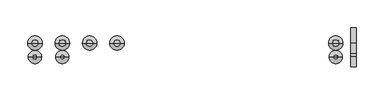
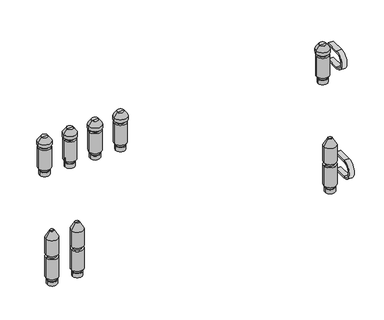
"""IFC4 building model written with IfcOpenShell, lengths in millimetres: valve geometry, PL AT_Manifold_FT-EV : 12 circuits."""

from ifc_helpers import new_model, si_unit, point, frame, frame_2d, origin, origin_2d, place, context, project, spatial, polyline, circle_curve, trimmed, segment, composite_curve, outline, extrude, source, transform, mapped, element, save
from ifc_brep_helpers import plane_surface, cylinder_surface, revolved_surface, advanced_brep


def valve_d379a65c(model_context):
    return source(origin(), model_context, "Body", "SolidModel", [
        advanced_brep(
        [(180.3181818, 25.0, 174.88733), (199.3181818, 25.0, 174.88733), (189.8181818, 25.0, 174.88733), (180.3181818, 25.0, 182.9630354), (199.3181818, 25.0, 182.9630354), (181.8181818, 25.0, 182.9630354), (197.8181818, 25.0, 182.9630354), (181.8181818, 25.0, 189.669747), (197.8181818, 25.0, 189.669747), (177.8181818, 25.0, 189.669747), (201.8181818, 25.0, 189.669747), (177.8181818, 25.0, 230.330253), (201.8181818, 25.0, 230.330253), (181.8181818, 25.0, 230.330253), (197.8181818, 25.0, 230.330253), (181.8181818, 25.0, 236.0474786), (197.8181818, 25.0, 236.0474786), (176.8181818, 25.0, 236.0474786), (202.8181818, 25.0, 236.0474786), (176.8181818, 25.0, 242.337955), (202.8181818, 25.0, 242.337955), (183.4733597, 25.0, 251.842534), (196.1630039, 25.0, 251.842534), (189.8181818, 25.0, 251.842534)],
        [
            (0, 1, circle_curve(frame((189.8181818, 25.0, 174.88733), z_axis=(0.0, 0.0, -1.0), x_axis=(1.0, 0.0, 0.0)), 9.5)),
            (1, 2),
            (2, 0),
            (1, 0, circle_curve(frame((189.8181818, 25.0, 174.88733), z_axis=(0.0, 0.0, -1.0), x_axis=(1.0, 0.0, 0.0)), 9.5)),
            (3, 4, circle_curve(frame((189.8181818, 25.0, 182.9630354), z_axis=(0.0, 0.0, -1.0), x_axis=(1.0, 0.0, 0.0)), 9.5)),
            (4, 1),
            (0, 3),
            (4, 3, circle_curve(frame((189.8181818, 25.0, 182.9630354), z_axis=(0.0, 0.0, -1.0), x_axis=(1.0, 0.0, 0.0)), 9.5)),
            (5, 6, circle_curve(frame((189.8181818, 25.0, 182.9630354), z_axis=(0.0, 0.0, -1.0), x_axis=(1.0, 0.0, 0.0)), 8.0)),
            (6, 4),
            (3, 5),
            (6, 5, circle_curve(frame((189.8181818, 25.0, 182.9630354), z_axis=(0.0, 0.0, -1.0), x_axis=(1.0, 0.0, 0.0)), 8.0)),
            (7, 8, circle_curve(frame((189.8181818, 25.0, 189.669747), z_axis=(0.0, 0.0, -1.0), x_axis=(1.0, 0.0, 0.0)), 8.0)),
            (8, 6),
            (5, 7),
            (8, 7, circle_curve(frame((189.8181818, 25.0, 189.669747), z_axis=(0.0, 0.0, -1.0), x_axis=(1.0, 0.0, 0.0)), 8.0)),
            (9, 10, circle_curve(frame((189.8181818, 25.0, 189.669747), z_axis=(0.0, 0.0, -1.0), x_axis=(1.0, 0.0, 0.0)), 12.0)),
            (10, 8),
            (7, 9),
            (10, 9, circle_curve(frame((189.8181818, 25.0, 189.669747), z_axis=(0.0, 0.0, -1.0), x_axis=(1.0, 0.0, 0.0)), 12.0)),
            (11, 12, circle_curve(frame((189.8181818, 25.0, 230.330253), z_axis=(0.0, 0.0, -1.0), x_axis=(1.0, 0.0, 0.0)), 12.0)),
            (12, 10),
            (9, 11),
            (12, 11, circle_curve(frame((189.8181818, 25.0, 230.330253), z_axis=(0.0, 0.0, -1.0), x_axis=(1.0, 0.0, 0.0)), 12.0)),
            (13, 14, circle_curve(frame((189.8181818, 25.0, 230.330253), z_axis=(0.0, 0.0, -1.0), x_axis=(1.0, 0.0, 0.0)), 8.0)),
            (14, 12),
            (11, 13),
            (14, 13, circle_curve(frame((189.8181818, 25.0, 230.330253), z_axis=(0.0, 0.0, -1.0), x_axis=(1.0, 0.0, 0.0)), 8.0)),
            (15, 16, circle_curve(frame((189.8181818, 25.0, 236.0474786), z_axis=(0.0, 0.0, -1.0), x_axis=(1.0, 0.0, 0.0)), 8.0)),
            (16, 14),
            (13, 15),
            (16, 15, circle_curve(frame((189.8181818, 25.0, 236.0474786), z_axis=(0.0, 0.0, -1.0), x_axis=(1.0, 0.0, 0.0)), 8.0)),
            (17, 18, circle_curve(frame((189.8181818, 25.0, 236.0474786), z_axis=(0.0, 0.0, -1.0), x_axis=(1.0, 0.0, 0.0)), 13.0)),
            (18, 16),
            (15, 17),
            (18, 17, circle_curve(frame((189.8181818, 25.0, 236.0474786), z_axis=(0.0, 0.0, -1.0), x_axis=(1.0, 0.0, 0.0)), 13.0)),
            (19, 20, circle_curve(frame((189.8181818, 25.0, 242.337955), z_axis=(0.0, 0.0, -1.0), x_axis=(1.0, 0.0, 0.0)), 13.0)),
            (20, 18),
            (17, 19),
            (20, 19, circle_curve(frame((189.8181818, 25.0, 242.337955), z_axis=(0.0, 0.0, -1.0), x_axis=(1.0, 0.0, 0.0)), 13.0)),
            (21, 22, circle_curve(frame((189.8181818, 25.0, 251.842534), z_axis=(0.0, 0.0, -1.0), x_axis=(1.0, 0.0, 0.0)), 6.3448221)),
            (22, 20),
            (19, 21),
            (22, 21, circle_curve(frame((189.8181818, 25.0, 251.842534), z_axis=(0.0, 0.0, -1.0), x_axis=(1.0, 0.0, 0.0)), 6.3448221)),
            (23, 22),
            (21, 23),
        ],
        [
            plane_surface(frame((189.8181818, 25.0, 174.88733), z_axis=(0.0, 0.0, -1.0), x_axis=(1.0, 0.0, 0.0))),
            cylinder_surface(frame((189.8181818, 25.0, 247.7026565), z_axis=(0.0, 0.0, 1.0), x_axis=(1.0, 0.0, 0.0)), 9.5),
            plane_surface(frame((189.8181818, 25.0, 182.9630354), z_axis=(0.0, 0.0, 1.0), x_axis=(1.0, 0.0, 0.0))),
            cylinder_surface(frame((189.8181818, 25.0, 247.7026565), z_axis=(0.0, 0.0, 1.0), x_axis=(1.0, 0.0, 0.0)), 8.0),
            plane_surface(frame((189.8181818, 25.0, 189.669747), z_axis=(0.0, 0.0, -1.0), x_axis=(1.0, 0.0, 0.0))),
            cylinder_surface(frame((189.8181818, 25.0, 247.7026565), z_axis=(0.0, 0.0, 1.0), x_axis=(1.0, 0.0, 0.0)), 12.0),
            plane_surface(frame((189.8181818, 25.0, 230.330253), z_axis=(0.0, 0.0, 1.0), x_axis=(1.0, 0.0, 0.0))),
            plane_surface(frame((189.8181818, 25.0, 236.0474786), z_axis=(0.0, 0.0, -1.0), x_axis=(1.0, 0.0, 0.0))),
            cylinder_surface(frame((189.8181818, 25.0, 247.7026565), z_axis=(0.0, 0.0, 1.0), x_axis=(1.0, 0.0, 0.0)), 13.0),
            revolved_surface(polyline([(202.8181818, 25.0, 242.337955), (196.1630039, 25.0, 251.842534)]), (189.8181818, 25.0, 247.7026565), (0.0, 0.0, 1.0)),
            plane_surface(frame((189.8181818, 25.0, 251.842534), z_axis=(0.0, 0.0, 1.0), x_axis=(1.0, 0.0, 0.0))),
        ],
        [
            (0, [[1, 2, 3]]),
            (0, [[4, -3, -2]]),
            (1, [[5, 6, -1, 7]]),
            (1, [[8, -7, -4, -6]]),
            (2, [[9, 10, -5, 11]]),
            (2, [[12, -11, -8, -10]]),
            (3, [[13, 14, -9, 15]]),
            (3, [[16, -15, -12, -14]]),
            (4, [[17, 18, -13, 19]]),
            (4, [[20, -19, -16, -18]]),
            (5, [[21, 22, -17, 23]]),
            (5, [[24, -23, -20, -22]]),
            (6, [[25, 26, -21, 27]]),
            (6, [[28, -27, -24, -26]]),
            (3, [[29, 30, -25, 31]]),
            (3, [[32, -31, -28, -30]]),
            (7, [[33, 34, -29, 35]]),
            (7, [[36, -35, -32, -34]]),
            (8, [[37, 38, -33, 39]]),
            (8, [[40, -39, -36, -38]]),
            (9, [[41, 42, -37, 43]]),
            (9, [[44, -43, -40, -42]]),
            (10, [[45, -41, 46]]),
            (10, [[-46, -44, -45]]),
        ],
    ),
        advanced_brep(
        [(131.0454545, 25.0, 174.88733), (150.0454545, 25.0, 174.88733), (140.5454545, 25.0, 174.88733), (131.0454545, 25.0, 182.9630354), (150.0454545, 25.0, 182.9630354), (132.5454545, 25.0, 182.9630354), (148.5454545, 25.0, 182.9630354), (132.5454545, 25.0, 189.669747), (148.5454545, 25.0, 189.669747), (128.5454545, 25.0, 189.669747), (152.5454545, 25.0, 189.669747), (128.5454545, 25.0, 230.330253), (152.5454545, 25.0, 230.330253), (132.5454545, 25.0, 230.330253), (148.5454545, 25.0, 230.330253), (132.5454545, 25.0, 236.0474786), (148.5454545, 25.0, 236.0474786), (127.5454545, 25.0, 236.0474786), (153.5454545, 25.0, 236.0474786), (127.5454545, 25.0, 242.337955), (153.5454545, 25.0, 242.337955), (134.2006324, 25.0, 251.842534), (146.8902767, 25.0, 251.842534), (140.5454545, 25.0, 251.842534)],
        [
            (0, 1, circle_curve(frame((140.5454545, 25.0, 174.88733), z_axis=(0.0, 0.0, -1.0), x_axis=(1.0, 0.0, 0.0)), 9.5)),
            (1, 2),
            (2, 0),
            (1, 0, circle_curve(frame((140.5454545, 25.0, 174.88733), z_axis=(0.0, 0.0, -1.0), x_axis=(1.0, 0.0, 0.0)), 9.5)),
            (3, 4, circle_curve(frame((140.5454545, 25.0, 182.9630354), z_axis=(0.0, 0.0, -1.0), x_axis=(1.0, 0.0, 0.0)), 9.5)),
            (4, 1),
            (0, 3),
            (4, 3, circle_curve(frame((140.5454545, 25.0, 182.9630354), z_axis=(0.0, 0.0, -1.0), x_axis=(1.0, 0.0, 0.0)), 9.5)),
            (5, 6, circle_curve(frame((140.5454545, 25.0, 182.9630354), z_axis=(0.0, 0.0, -1.0), x_axis=(1.0, 0.0, 0.0)), 8.0)),
            (6, 4),
            (3, 5),
            (6, 5, circle_curve(frame((140.5454545, 25.0, 182.9630354), z_axis=(0.0, 0.0, -1.0), x_axis=(1.0, 0.0, 0.0)), 8.0)),
            (7, 8, circle_curve(frame((140.5454545, 25.0, 189.669747), z_axis=(0.0, 0.0, -1.0), x_axis=(1.0, 0.0, 0.0)), 8.0)),
            (8, 6),
            (5, 7),
            (8, 7, circle_curve(frame((140.5454545, 25.0, 189.669747), z_axis=(0.0, 0.0, -1.0), x_axis=(1.0, 0.0, 0.0)), 8.0)),
            (9, 10, circle_curve(frame((140.5454545, 25.0, 189.669747), z_axis=(0.0, 0.0, -1.0), x_axis=(1.0, 0.0, 0.0)), 12.0)),
            (10, 8),
            (7, 9),
            (10, 9, circle_curve(frame((140.5454545, 25.0, 189.669747), z_axis=(0.0, 0.0, -1.0), x_axis=(1.0, 0.0, 0.0)), 12.0)),
            (11, 12, circle_curve(frame((140.5454545, 25.0, 230.330253), z_axis=(0.0, 0.0, -1.0), x_axis=(1.0, 0.0, 0.0)), 12.0)),
            (12, 10),
            (9, 11),
            (12, 11, circle_curve(frame((140.5454545, 25.0, 230.330253), z_axis=(0.0, 0.0, -1.0), x_axis=(1.0, 0.0, 0.0)), 12.0)),
            (13, 14, circle_curve(frame((140.5454545, 25.0, 230.330253), z_axis=(0.0, 0.0, -1.0), x_axis=(1.0, 0.0, 0.0)), 8.0)),
            (14, 12),
            (11, 13),
            (14, 13, circle_curve(frame((140.5454545, 25.0, 230.330253), z_axis=(0.0, 0.0, -1.0), x_axis=(1.0, 0.0, 0.0)), 8.0)),
            (15, 16, circle_curve(frame((140.5454545, 25.0, 236.0474786), z_axis=(0.0, 0.0, -1.0), x_axis=(1.0, 0.0, 0.0)), 8.0)),
            (16, 14),
            (13, 15),
            (16, 15, circle_curve(frame((140.5454545, 25.0, 236.0474786), z_axis=(0.0, 0.0, -1.0), x_axis=(1.0, 0.0, 0.0)), 8.0)),
            (17, 18, circle_curve(frame((140.5454545, 25.0, 236.0474786), z_axis=(0.0, 0.0, -1.0), x_axis=(1.0, 0.0, 0.0)), 13.0)),
            (18, 16),
            (15, 17),
            (18, 17, circle_curve(frame((140.5454545, 25.0, 236.0474786), z_axis=(0.0, 0.0, -1.0), x_axis=(1.0, 0.0, 0.0)), 13.0)),
            (19, 20, circle_curve(frame((140.5454545, 25.0, 242.337955), z_axis=(0.0, 0.0, -1.0), x_axis=(1.0, 0.0, 0.0)), 13.0)),
            (20, 18),
            (17, 19),
            (20, 19, circle_curve(frame((140.5454545, 25.0, 242.337955), z_axis=(0.0, 0.0, -1.0), x_axis=(1.0, 0.0, 0.0)), 13.0)),
            (21, 22, circle_curve(frame((140.5454545, 25.0, 251.842534), z_axis=(0.0, 0.0, -1.0), x_axis=(1.0, 0.0, 0.0)), 6.3448221)),
            (22, 20),
            (19, 21),
            (22, 21, circle_curve(frame((140.5454545, 25.0, 251.842534), z_axis=(0.0, 0.0, -1.0), x_axis=(1.0, 0.0, 0.0)), 6.3448221)),
            (23, 22),
            (21, 23),
        ],
        [
            plane_surface(frame((140.5454545, 25.0, 174.88733), z_axis=(0.0, 0.0, -1.0), x_axis=(1.0, 0.0, 0.0))),
            cylinder_surface(frame((140.5454545, 25.0, 247.7026565), z_axis=(0.0, 0.0, 1.0), x_axis=(1.0, 0.0, 0.0)), 9.5),
            plane_surface(frame((140.5454545, 25.0, 182.9630354), z_axis=(0.0, 0.0, 1.0), x_axis=(1.0, 0.0, 0.0))),
            cylinder_surface(frame((140.5454545, 25.0, 247.7026565), z_axis=(0.0, 0.0, 1.0), x_axis=(1.0, 0.0, 0.0)), 8.0),
            plane_surface(frame((140.5454545, 25.0, 189.669747), z_axis=(0.0, 0.0, -1.0), x_axis=(1.0, 0.0, 0.0))),
            cylinder_surface(frame((140.5454545, 25.0, 247.7026565), z_axis=(0.0, 0.0, 1.0), x_axis=(1.0, 0.0, 0.0)), 12.0),
            plane_surface(frame((140.5454545, 25.0, 230.330253), z_axis=(0.0, 0.0, 1.0), x_axis=(1.0, 0.0, 0.0))),
            plane_surface(frame((140.5454545, 25.0, 236.0474786), z_axis=(0.0, 0.0, -1.0), x_axis=(1.0, 0.0, 0.0))),
            cylinder_surface(frame((140.5454545, 25.0, 247.7026565), z_axis=(0.0, 0.0, 1.0), x_axis=(1.0, 0.0, 0.0)), 13.0),
            revolved_surface(polyline([(153.5454545, 25.0, 242.337955), (146.8902767, 25.0, 251.842534)]), (140.5454545, 25.0, 247.7026565), (0.0, 0.0, 1.0)),
            plane_surface(frame((140.5454545, 25.0, 251.842534), z_axis=(0.0, 0.0, 1.0), x_axis=(1.0, 0.0, 0.0))),
        ],
        [
            (0, [[1, 2, 3]]),
            (0, [[4, -3, -2]]),
            (1, [[5, 6, -1, 7]]),
            (1, [[8, -7, -4, -6]]),
            (2, [[9, 10, -5, 11]]),
            (2, [[12, -11, -8, -10]]),
            (3, [[13, 14, -9, 15]]),
            (3, [[16, -15, -12, -14]]),
            (4, [[17, 18, -13, 19]]),
            (4, [[20, -19, -16, -18]]),
            (5, [[21, 22, -17, 23]]),
            (5, [[24, -23, -20, -22]]),
            (6, [[25, 26, -21, 27]]),
            (6, [[28, -27, -24, -26]]),
            (3, [[29, 30, -25, 31]]),
            (3, [[32, -31, -28, -30]]),
            (7, [[33, 34, -29, 35]]),
            (7, [[36, -35, -32, -34]]),
            (8, [[37, 38, -33, 39]]),
            (8, [[40, -39, -36, -38]]),
            (9, [[41, 42, -37, 43]]),
            (9, [[44, -43, -40, -42]]),
            (10, [[45, -41, 46]]),
            (10, [[-46, -44, -45]]),
        ],
    ),
        advanced_brep(
        [(81.7727273, 0.0, -35.11267), (100.7727273, 0.0, -35.11267), (91.2727273, 0.0, -35.11267), (81.7727273, 0.0, -27.0369646), (100.7727273, 0.0, -27.0369646), (83.2727273, 0.0, -27.0369646), (99.2727273, 0.0, -27.0369646), (83.2727273, 0.0, -20.330253), (99.2727273, 0.0, -20.330253), (79.2727273, 0.0, -20.330253), (103.2727273, 0.0, -20.330253), (79.2727273, 0.0, 20.330253), (103.2727273, 0.0, 20.330253), (83.2727273, 0.0, 20.330253), (99.2727273, 0.0, 20.330253), (83.2727273, 0.0, 27.0474786), (99.2727273, 0.0, 27.0474786), (79.2727273, 0.0, 27.0474786), (103.2727273, 0.0, 27.0474786), (79.2727273, 0.0, 59.4084325), (103.2727273, 0.0, 59.4084325), (87.2727273, 0.0, 73.264839), (95.2727273, 0.0, 73.264839), (91.2727273, 0.0, 73.264839)],
        [
            (0, 1, circle_curve(frame((91.2727273, 0.0, -35.11267), z_axis=(0.0, 0.0, -1.0), x_axis=(1.0, 0.0, 0.0)), 9.5)),
            (1, 2),
            (2, 0),
            (1, 0, circle_curve(frame((91.2727273, 0.0, -35.11267), z_axis=(0.0, 0.0, -1.0), x_axis=(1.0, 0.0, 0.0)), 9.5)),
            (3, 4, circle_curve(frame((91.2727273, 0.0, -27.0369646), z_axis=(0.0, 0.0, -1.0), x_axis=(1.0, 0.0, 0.0)), 9.5)),
            (4, 1),
            (0, 3),
            (4, 3, circle_curve(frame((91.2727273, 0.0, -27.0369646), z_axis=(0.0, 0.0, -1.0), x_axis=(1.0, 0.0, 0.0)), 9.5)),
            (5, 6, circle_curve(frame((91.2727273, 0.0, -27.0369646), z_axis=(0.0, 0.0, -1.0), x_axis=(1.0, 0.0, 0.0)), 8.0)),
            (6, 4),
            (3, 5),
            (6, 5, circle_curve(frame((91.2727273, 0.0, -27.0369646), z_axis=(0.0, 0.0, -1.0), x_axis=(1.0, 0.0, 0.0)), 8.0)),
            (7, 8, circle_curve(frame((91.2727273, 0.0, -20.330253), z_axis=(0.0, 0.0, -1.0), x_axis=(1.0, 0.0, 0.0)), 8.0)),
            (8, 6),
            (5, 7),
            (8, 7, circle_curve(frame((91.2727273, 0.0, -20.330253), z_axis=(0.0, 0.0, -1.0), x_axis=(1.0, 0.0, 0.0)), 8.0)),
            (9, 10, circle_curve(frame((91.2727273, 0.0, -20.330253), z_axis=(0.0, 0.0, -1.0), x_axis=(1.0, 0.0, 0.0)), 12.0)),
            (10, 8),
            (7, 9),
            (10, 9, circle_curve(frame((91.2727273, 0.0, -20.330253), z_axis=(0.0, 0.0, -1.0), x_axis=(1.0, 0.0, 0.0)), 12.0)),
            (11, 12, circle_curve(frame((91.2727273, 0.0, 20.330253), z_axis=(0.0, 0.0, -1.0), x_axis=(1.0, 0.0, 0.0)), 12.0)),
            (12, 10),
            (9, 11),
            (12, 11, circle_curve(frame((91.2727273, 0.0, 20.330253), z_axis=(0.0, 0.0, -1.0), x_axis=(1.0, 0.0, 0.0)), 12.0)),
            (13, 14, circle_curve(frame((91.2727273, 0.0, 20.330253), z_axis=(0.0, 0.0, -1.0), x_axis=(1.0, 0.0, 0.0)), 8.0)),
            (14, 12),
            (11, 13),
            (14, 13, circle_curve(frame((91.2727273, 0.0, 20.330253), z_axis=(0.0, 0.0, -1.0), x_axis=(1.0, 0.0, 0.0)), 8.0)),
            (15, 16, circle_curve(frame((91.2727273, 0.0, 27.0474786), z_axis=(0.0, 0.0, -1.0), x_axis=(1.0, 0.0, 0.0)), 8.0)),
            (16, 14),
            (13, 15),
            (16, 15, circle_curve(frame((91.2727273, 0.0, 27.0474786), z_axis=(0.0, 0.0, -1.0), x_axis=(1.0, 0.0, 0.0)), 8.0)),
            (17, 18, circle_curve(frame((91.2727273, 0.0, 27.0474786), z_axis=(0.0, 0.0, -1.0), x_axis=(1.0, 0.0, 0.0)), 12.0)),
            (18, 16),
            (15, 17),
            (18, 17, circle_curve(frame((91.2727273, 0.0, 27.0474786), z_axis=(0.0, 0.0, -1.0), x_axis=(1.0, 0.0, 0.0)), 12.0)),
            (19, 20, circle_curve(frame((91.2727273, 0.0, 59.4084325), z_axis=(0.0, 0.0, -1.0), x_axis=(1.0, 0.0, 0.0)), 12.0)),
            (20, 18),
            (17, 19),
            (20, 19, circle_curve(frame((91.2727273, 0.0, 59.4084325), z_axis=(0.0, 0.0, -1.0), x_axis=(1.0, 0.0, 0.0)), 12.0)),
            (21, 22, circle_curve(frame((91.2727273, 0.0, 73.264839), z_axis=(0.0, 0.0, -1.0), x_axis=(1.0, 0.0, 0.0)), 4.0)),
            (22, 20),
            (19, 21),
            (22, 21, circle_curve(frame((91.2727273, 0.0, 73.264839), z_axis=(0.0, 0.0, -1.0), x_axis=(1.0, 0.0, 0.0)), 4.0)),
            (23, 22),
            (21, 23),
        ],
        [
            plane_surface(frame((91.2727273, 0.0, -35.11267), z_axis=(0.0, 0.0, -1.0), x_axis=(1.0, 0.0, 0.0))),
            cylinder_surface(frame((91.2727273, 0.0, 58.264839), z_axis=(0.0, 0.0, 1.0), x_axis=(1.0, 0.0, 0.0)), 9.5),
            plane_surface(frame((91.2727273, 0.0, -27.0369646), z_axis=(0.0, 0.0, 1.0), x_axis=(1.0, 0.0, 0.0))),
            cylinder_surface(frame((91.2727273, 0.0, 58.264839), z_axis=(0.0, 0.0, 1.0), x_axis=(1.0, 0.0, 0.0)), 8.0),
            plane_surface(frame((91.2727273, 0.0, -20.330253), z_axis=(0.0, 0.0, -1.0), x_axis=(1.0, 0.0, 0.0))),
            cylinder_surface(frame((91.2727273, 0.0, 58.264839), z_axis=(0.0, 0.0, 1.0), x_axis=(1.0, 0.0, 0.0)), 12.0),
            plane_surface(frame((91.2727273, 0.0, 20.330253), z_axis=(0.0, 0.0, 1.0), x_axis=(1.0, 0.0, 0.0))),
            plane_surface(frame((91.2727273, 0.0, 27.0474786), z_axis=(0.0, 0.0, -1.0), x_axis=(1.0, 0.0, 0.0))),
            revolved_surface(polyline([(103.2727273, 0.0, 59.4084325), (95.2727273, 0.0, 73.264839)]), (91.2727273, 0.0, 58.264839), (0.0, 0.0, 1.0)),
            plane_surface(frame((91.2727273, 0.0, 73.264839), z_axis=(0.0, 0.0, 1.0), x_axis=(1.0, 0.0, 0.0))),
        ],
        [
            (0, [[1, 2, 3]]),
            (0, [[4, -3, -2]]),
            (1, [[5, 6, -1, 7]]),
            (1, [[8, -7, -4, -6]]),
            (2, [[9, 10, -5, 11]]),
            (2, [[12, -11, -8, -10]]),
            (3, [[13, 14, -9, 15]]),
            (3, [[16, -15, -12, -14]]),
            (4, [[17, 18, -13, 19]]),
            (4, [[20, -19, -16, -18]]),
            (5, [[21, 22, -17, 23]]),
            (5, [[24, -23, -20, -22]]),
            (6, [[25, 26, -21, 27]]),
            (6, [[28, -27, -24, -26]]),
            (3, [[29, 30, -25, 31]]),
            (3, [[32, -31, -28, -30]]),
            (7, [[33, 34, -29, 35]]),
            (7, [[36, -35, -32, -34]]),
            (5, [[37, 38, -33, 39]]),
            (5, [[40, -39, -36, -38]]),
            (8, [[41, 42, -37, 43]]),
            (8, [[44, -43, -40, -42]]),
            (9, [[45, -41, 46]]),
            (9, [[-46, -44, -45]]),
        ],
    ),
        advanced_brep(
        [(81.7727273, 25.0, 174.88733), (100.7727273, 25.0, 174.88733), (91.2727273, 25.0, 174.88733), (81.7727273, 25.0, 182.9630354), (100.7727273, 25.0, 182.9630354), (83.2727273, 25.0, 182.9630354), (99.2727273, 25.0, 182.9630354), (83.2727273, 25.0, 189.669747), (99.2727273, 25.0, 189.669747), (79.2727273, 25.0, 189.669747), (103.2727273, 25.0, 189.669747), (79.2727273, 25.0, 230.330253), (103.2727273, 25.0, 230.330253), (83.2727273, 25.0, 230.330253), (99.2727273, 25.0, 230.330253), (83.2727273, 25.0, 236.0474786), (99.2727273, 25.0, 236.0474786), (78.2727273, 25.0, 236.0474786), (104.2727273, 25.0, 236.0474786), (78.2727273, 25.0, 242.337955), (104.2727273, 25.0, 242.337955), (84.9279051, 25.0, 251.842534), (97.6175494, 25.0, 251.842534), (91.2727273, 25.0, 251.842534)],
        [
            (0, 1, circle_curve(frame((91.2727273, 25.0, 174.88733), z_axis=(0.0, 0.0, -1.0), x_axis=(1.0, 0.0, 0.0)), 9.5)),
            (1, 2),
            (2, 0),
            (1, 0, circle_curve(frame((91.2727273, 25.0, 174.88733), z_axis=(0.0, 0.0, -1.0), x_axis=(1.0, 0.0, 0.0)), 9.5)),
            (3, 4, circle_curve(frame((91.2727273, 25.0, 182.9630354), z_axis=(0.0, 0.0, -1.0), x_axis=(1.0, 0.0, 0.0)), 9.5)),
            (4, 1),
            (0, 3),
            (4, 3, circle_curve(frame((91.2727273, 25.0, 182.9630354), z_axis=(0.0, 0.0, -1.0), x_axis=(1.0, 0.0, 0.0)), 9.5)),
            (5, 6, circle_curve(frame((91.2727273, 25.0, 182.9630354), z_axis=(0.0, 0.0, -1.0), x_axis=(1.0, 0.0, 0.0)), 8.0)),
            (6, 4),
            (3, 5),
            (6, 5, circle_curve(frame((91.2727273, 25.0, 182.9630354), z_axis=(0.0, 0.0, -1.0), x_axis=(1.0, 0.0, 0.0)), 8.0)),
            (7, 8, circle_curve(frame((91.2727273, 25.0, 189.669747), z_axis=(0.0, 0.0, -1.0), x_axis=(1.0, 0.0, 0.0)), 8.0)),
            (8, 6),
            (5, 7),
            (8, 7, circle_curve(frame((91.2727273, 25.0, 189.669747), z_axis=(0.0, 0.0, -1.0), x_axis=(1.0, 0.0, 0.0)), 8.0)),
            (9, 10, circle_curve(frame((91.2727273, 25.0, 189.669747), z_axis=(0.0, 0.0, -1.0), x_axis=(1.0, 0.0, 0.0)), 12.0)),
            (10, 8),
            (7, 9),
            (10, 9, circle_curve(frame((91.2727273, 25.0, 189.669747), z_axis=(0.0, 0.0, -1.0), x_axis=(1.0, 0.0, 0.0)), 12.0)),
            (11, 12, circle_curve(frame((91.2727273, 25.0, 230.330253), z_axis=(0.0, 0.0, -1.0), x_axis=(1.0, 0.0, 0.0)), 12.0)),
            (12, 10),
            (9, 11),
            (12, 11, circle_curve(frame((91.2727273, 25.0, 230.330253), z_axis=(0.0, 0.0, -1.0), x_axis=(1.0, 0.0, 0.0)), 12.0)),
            (13, 14, circle_curve(frame((91.2727273, 25.0, 230.330253), z_axis=(0.0, 0.0, -1.0), x_axis=(1.0, 0.0, 0.0)), 8.0)),
            (14, 12),
            (11, 13),
            (14, 13, circle_curve(frame((91.2727273, 25.0, 230.330253), z_axis=(0.0, 0.0, -1.0), x_axis=(1.0, 0.0, 0.0)), 8.0)),
            (15, 16, circle_curve(frame((91.2727273, 25.0, 236.0474786), z_axis=(0.0, 0.0, -1.0), x_axis=(1.0, 0.0, 0.0)), 8.0)),
            (16, 14),
            (13, 15),
            (16, 15, circle_curve(frame((91.2727273, 25.0, 236.0474786), z_axis=(0.0, 0.0, -1.0), x_axis=(1.0, 0.0, 0.0)), 8.0)),
            (17, 18, circle_curve(frame((91.2727273, 25.0, 236.0474786), z_axis=(0.0, 0.0, -1.0), x_axis=(1.0, 0.0, 0.0)), 13.0)),
            (18, 16),
            (15, 17),
            (18, 17, circle_curve(frame((91.2727273, 25.0, 236.0474786), z_axis=(0.0, 0.0, -1.0), x_axis=(1.0, 0.0, 0.0)), 13.0)),
            (19, 20, circle_curve(frame((91.2727273, 25.0, 242.337955), z_axis=(0.0, 0.0, -1.0), x_axis=(1.0, 0.0, 0.0)), 13.0)),
            (20, 18),
            (17, 19),
            (20, 19, circle_curve(frame((91.2727273, 25.0, 242.337955), z_axis=(0.0, 0.0, -1.0), x_axis=(1.0, 0.0, 0.0)), 13.0)),
            (21, 22, circle_curve(frame((91.2727273, 25.0, 251.842534), z_axis=(0.0, 0.0, -1.0), x_axis=(1.0, 0.0, 0.0)), 6.3448221)),
            (22, 20),
            (19, 21),
            (22, 21, circle_curve(frame((91.2727273, 25.0, 251.842534), z_axis=(0.0, 0.0, -1.0), x_axis=(1.0, 0.0, 0.0)), 6.3448221)),
            (23, 22),
            (21, 23),
        ],
        [
            plane_surface(frame((91.2727273, 25.0, 174.88733), z_axis=(0.0, 0.0, -1.0), x_axis=(1.0, 0.0, 0.0))),
            cylinder_surface(frame((91.2727273, 25.0, 247.7026565), z_axis=(0.0, 0.0, 1.0), x_axis=(1.0, 0.0, 0.0)), 9.5),
            plane_surface(frame((91.2727273, 25.0, 182.9630354), z_axis=(0.0, 0.0, 1.0), x_axis=(1.0, 0.0, 0.0))),
            cylinder_surface(frame((91.2727273, 25.0, 247.7026565), z_axis=(0.0, 0.0, 1.0), x_axis=(1.0, 0.0, 0.0)), 8.0),
            plane_surface(frame((91.2727273, 25.0, 189.669747), z_axis=(0.0, 0.0, -1.0), x_axis=(1.0, 0.0, 0.0))),
            cylinder_surface(frame((91.2727273, 25.0, 247.7026565), z_axis=(0.0, 0.0, 1.0), x_axis=(1.0, 0.0, 0.0)), 12.0),
            plane_surface(frame((91.2727273, 25.0, 230.330253), z_axis=(0.0, 0.0, 1.0), x_axis=(1.0, 0.0, 0.0))),
            plane_surface(frame((91.2727273, 25.0, 236.0474786), z_axis=(0.0, 0.0, -1.0), x_axis=(1.0, 0.0, 0.0))),
            cylinder_surface(frame((91.2727273, 25.0, 247.7026565), z_axis=(0.0, 0.0, 1.0), x_axis=(1.0, 0.0, 0.0)), 13.0),
            revolved_surface(polyline([(104.2727273, 25.0, 242.337955), (97.6175494, 25.0, 251.842534)]), (91.2727273, 25.0, 247.7026565), (0.0, 0.0, 1.0)),
            plane_surface(frame((91.2727273, 25.0, 251.842534), z_axis=(0.0, 0.0, 1.0), x_axis=(1.0, 0.0, 0.0))),
        ],
        [
            (0, [[1, 2, 3]]),
            (0, [[4, -3, -2]]),
            (1, [[5, 6, -1, 7]]),
            (1, [[8, -7, -4, -6]]),
            (2, [[9, 10, -5, 11]]),
            (2, [[12, -11, -8, -10]]),
            (3, [[13, 14, -9, 15]]),
            (3, [[16, -15, -12, -14]]),
            (4, [[17, 18, -13, 19]]),
            (4, [[20, -19, -16, -18]]),
            (5, [[21, 22, -17, 23]]),
            (5, [[24, -23, -20, -22]]),
            (6, [[25, 26, -21, 27]]),
            (6, [[28, -27, -24, -26]]),
            (3, [[29, 30, -25, 31]]),
            (3, [[32, -31, -28, -30]]),
            (7, [[33, 34, -29, 35]]),
            (7, [[36, -35, -32, -34]]),
            (8, [[37, 38, -33, 39]]),
            (8, [[40, -39, -36, -38]]),
            (9, [[41, 42, -37, 43]]),
            (9, [[44, -43, -40, -42]]),
            (10, [[45, -41, 46]]),
            (10, [[-46, -44, -45]]),
        ],
    ),
        advanced_brep(
        [(574.5, 0.0, -35.11267), (593.5, 0.0, -35.11267), (584.0, 0.0, -35.11267), (574.5, 0.0, -27.0369646), (593.5, 0.0, -27.0369646), (576.0, 0.0, -27.0369646), (592.0, 0.0, -27.0369646), (576.0, 0.0, -20.330253), (592.0, 0.0, -20.330253), (572.0, 0.0, -20.330253), (596.0, 0.0, -20.330253), (572.0, 0.0, 20.330253), (596.0, 0.0, 20.330253), (576.0, 0.0, 20.330253), (592.0, 0.0, 20.330253), (576.0, 0.0, 27.0474786), (592.0, 0.0, 27.0474786), (572.0, 0.0, 27.0474786), (596.0, 0.0, 27.0474786), (572.0, 0.0, 59.4084325), (596.0, 0.0, 59.4084325), (580.0, 0.0, 73.264839), (588.0, 0.0, 73.264839), (584.0, 0.0, 73.264839)],
        [
            (0, 1, circle_curve(frame((584.0, 0.0, -35.11267), z_axis=(0.0, 0.0, -1.0), x_axis=(1.0, 0.0, 0.0)), 9.5)),
            (1, 2),
            (2, 0),
            (1, 0, circle_curve(frame((584.0, 0.0, -35.11267), z_axis=(0.0, 0.0, -1.0), x_axis=(1.0, 0.0, 0.0)), 9.5)),
            (3, 4, circle_curve(frame((584.0, 0.0, -27.0369646), z_axis=(0.0, 0.0, -1.0), x_axis=(1.0, 0.0, 0.0)), 9.5)),
            (4, 1),
            (0, 3),
            (4, 3, circle_curve(frame((584.0, 0.0, -27.0369646), z_axis=(0.0, 0.0, -1.0), x_axis=(1.0, 0.0, 0.0)), 9.5)),
            (5, 6, circle_curve(frame((584.0, 0.0, -27.0369646), z_axis=(0.0, 0.0, -1.0), x_axis=(1.0, 0.0, 0.0)), 8.0)),
            (6, 4),
            (3, 5),
            (6, 5, circle_curve(frame((584.0, 0.0, -27.0369646), z_axis=(0.0, 0.0, -1.0), x_axis=(1.0, 0.0, 0.0)), 8.0)),
            (7, 8, circle_curve(frame((584.0, 0.0, -20.330253), z_axis=(0.0, 0.0, -1.0), x_axis=(1.0, 0.0, 0.0)), 8.0)),
            (8, 6),
            (5, 7),
            (8, 7, circle_curve(frame((584.0, 0.0, -20.330253), z_axis=(0.0, 0.0, -1.0), x_axis=(1.0, 0.0, 0.0)), 8.0)),
            (9, 10, circle_curve(frame((584.0, 0.0, -20.330253), z_axis=(0.0, 0.0, -1.0), x_axis=(1.0, 0.0, 0.0)), 12.0)),
            (10, 8),
            (7, 9),
            (10, 9, circle_curve(frame((584.0, 0.0, -20.330253), z_axis=(0.0, 0.0, -1.0), x_axis=(1.0, 0.0, 0.0)), 12.0)),
            (11, 12, circle_curve(frame((584.0, 0.0, 20.330253), z_axis=(0.0, 0.0, -1.0), x_axis=(1.0, 0.0, 0.0)), 12.0)),
            (12, 10),
            (9, 11),
            (12, 11, circle_curve(frame((584.0, 0.0, 20.330253), z_axis=(0.0, 0.0, -1.0), x_axis=(1.0, 0.0, 0.0)), 12.0)),
            (13, 14, circle_curve(frame((584.0, 0.0, 20.330253), z_axis=(0.0, 0.0, -1.0), x_axis=(1.0, 0.0, 0.0)), 8.0)),
            (14, 12),
            (11, 13),
            (14, 13, circle_curve(frame((584.0, 0.0, 20.330253), z_axis=(0.0, 0.0, -1.0), x_axis=(1.0, 0.0, 0.0)), 8.0)),
            (15, 16, circle_curve(frame((584.0, 0.0, 27.0474786), z_axis=(0.0, 0.0, -1.0), x_axis=(1.0, 0.0, 0.0)), 8.0)),
            (16, 14),
            (13, 15),
            (16, 15, circle_curve(frame((584.0, 0.0, 27.0474786), z_axis=(0.0, 0.0, -1.0), x_axis=(1.0, 0.0, 0.0)), 8.0)),
            (17, 18, circle_curve(frame((584.0, 0.0, 27.0474786), z_axis=(0.0, 0.0, -1.0), x_axis=(1.0, 0.0, 0.0)), 12.0)),
            (18, 16),
            (15, 17),
            (18, 17, circle_curve(frame((584.0, 0.0, 27.0474786), z_axis=(0.0, 0.0, -1.0), x_axis=(1.0, 0.0, 0.0)), 12.0)),
            (19, 20, circle_curve(frame((584.0, 0.0, 59.4084325), z_axis=(0.0, 0.0, -1.0), x_axis=(1.0, 0.0, 0.0)), 12.0)),
            (20, 18),
            (17, 19),
            (20, 19, circle_curve(frame((584.0, 0.0, 59.4084325), z_axis=(0.0, 0.0, -1.0), x_axis=(1.0, 0.0, 0.0)), 12.0)),
            (21, 22, circle_curve(frame((584.0, 0.0, 73.264839), z_axis=(0.0, 0.0, -1.0), x_axis=(1.0, 0.0, 0.0)), 4.0)),
            (22, 20),
            (19, 21),
            (22, 21, circle_curve(frame((584.0, 0.0, 73.264839), z_axis=(0.0, 0.0, -1.0), x_axis=(1.0, 0.0, 0.0)), 4.0)),
            (23, 22),
            (21, 23),
        ],
        [
            plane_surface(frame((584.0, 0.0, -35.11267), z_axis=(0.0, 0.0, -1.0), x_axis=(1.0, 0.0, 0.0))),
            cylinder_surface(frame((584.0, 0.0, 58.264839), z_axis=(0.0, 0.0, 1.0), x_axis=(1.0, 0.0, 0.0)), 9.5),
            plane_surface(frame((584.0, 0.0, -27.0369646), z_axis=(0.0, 0.0, 1.0), x_axis=(1.0, 0.0, 0.0))),
            cylinder_surface(frame((584.0, 0.0, 58.264839), z_axis=(0.0, 0.0, 1.0), x_axis=(1.0, 0.0, 0.0)), 8.0),
            plane_surface(frame((584.0, 0.0, -20.330253), z_axis=(0.0, 0.0, -1.0), x_axis=(1.0, 0.0, 0.0))),
            cylinder_surface(frame((584.0, 0.0, 58.264839), z_axis=(0.0, 0.0, 1.0), x_axis=(1.0, 0.0, 0.0)), 12.0),
            plane_surface(frame((584.0, 0.0, 20.330253), z_axis=(0.0, 0.0, 1.0), x_axis=(1.0, 0.0, 0.0))),
            plane_surface(frame((584.0, 0.0, 27.0474786), z_axis=(0.0, 0.0, -1.0), x_axis=(1.0, 0.0, 0.0))),
            revolved_surface(polyline([(596.0, 0.0, 59.4084325), (588.0, 0.0, 73.264839)]), (584.0, 0.0, 58.264839), (0.0, 0.0, 1.0)),
            plane_surface(frame((584.0, 0.0, 73.264839), z_axis=(0.0, 0.0, 1.0), x_axis=(1.0, 0.0, 0.0))),
        ],
        [
            (0, [[1, 2, 3]]),
            (0, [[4, -3, -2]]),
            (1, [[5, 6, -1, 7]]),
            (1, [[8, -7, -4, -6]]),
            (2, [[9, 10, -5, 11]]),
            (2, [[12, -11, -8, -10]]),
            (3, [[13, 14, -9, 15]]),
            (3, [[16, -15, -12, -14]]),
            (4, [[17, 18, -13, 19]]),
            (4, [[20, -19, -16, -18]]),
            (5, [[21, 22, -17, 23]]),
            (5, [[24, -23, -20, -22]]),
            (6, [[25, 26, -21, 27]]),
            (6, [[28, -27, -24, -26]]),
            (3, [[29, 30, -25, 31]]),
            (3, [[32, -31, -28, -30]]),
            (7, [[33, 34, -29, 35]]),
            (7, [[36, -35, -32, -34]]),
            (5, [[37, 38, -33, 39]]),
            (5, [[40, -39, -36, -38]]),
            (8, [[41, 42, -37, 43]]),
            (8, [[44, -43, -40, -42]]),
            (9, [[45, -41, 46]]),
            (9, [[-46, -44, -45]]),
        ],
    ),
        advanced_brep(
        [(574.5, 25.0, 174.88733), (593.5, 25.0, 174.88733), (584.0, 25.0, 174.88733), (574.5, 25.0, 182.9630354), (593.5, 25.0, 182.9630354), (576.0, 25.0, 182.9630354), (592.0, 25.0, 182.9630354), (576.0, 25.0, 189.669747), (592.0, 25.0, 189.669747), (572.0, 25.0, 189.669747), (596.0, 25.0, 189.669747), (572.0, 25.0, 230.330253), (596.0, 25.0, 230.330253), (576.0, 25.0, 230.330253), (592.0, 25.0, 230.330253), (576.0, 25.0, 236.0474786), (592.0, 25.0, 236.0474786), (571.0, 25.0, 236.0474786), (597.0, 25.0, 236.0474786), (571.0, 25.0, 242.337955), (597.0, 25.0, 242.337955), (577.6551779, 25.0, 251.842534), (590.3448221, 25.0, 251.842534), (584.0, 25.0, 251.842534)],
        [
            (0, 1, circle_curve(frame((584.0, 25.0, 174.88733), z_axis=(0.0, 0.0, -1.0), x_axis=(1.0, 0.0, 0.0)), 9.5)),
            (1, 2),
            (2, 0),
            (1, 0, circle_curve(frame((584.0, 25.0, 174.88733), z_axis=(0.0, 0.0, -1.0), x_axis=(1.0, 0.0, 0.0)), 9.5)),
            (3, 4, circle_curve(frame((584.0, 25.0, 182.9630354), z_axis=(0.0, 0.0, -1.0), x_axis=(1.0, 0.0, 0.0)), 9.5)),
            (4, 1),
            (0, 3),
            (4, 3, circle_curve(frame((584.0, 25.0, 182.9630354), z_axis=(0.0, 0.0, -1.0), x_axis=(1.0, 0.0, 0.0)), 9.5)),
            (5, 6, circle_curve(frame((584.0, 25.0, 182.9630354), z_axis=(0.0, 0.0, -1.0), x_axis=(1.0, 0.0, 0.0)), 8.0)),
            (6, 4),
            (3, 5),
            (6, 5, circle_curve(frame((584.0, 25.0, 182.9630354), z_axis=(0.0, 0.0, -1.0), x_axis=(1.0, 0.0, 0.0)), 8.0)),
            (7, 8, circle_curve(frame((584.0, 25.0, 189.669747), z_axis=(0.0, 0.0, -1.0), x_axis=(1.0, 0.0, 0.0)), 8.0)),
            (8, 6),
            (5, 7),
            (8, 7, circle_curve(frame((584.0, 25.0, 189.669747), z_axis=(0.0, 0.0, -1.0), x_axis=(1.0, 0.0, 0.0)), 8.0)),
            (9, 10, circle_curve(frame((584.0, 25.0, 189.669747), z_axis=(0.0, 0.0, -1.0), x_axis=(1.0, 0.0, 0.0)), 12.0)),
            (10, 8),
            (7, 9),
            (10, 9, circle_curve(frame((584.0, 25.0, 189.669747), z_axis=(0.0, 0.0, -1.0), x_axis=(1.0, 0.0, 0.0)), 12.0)),
            (11, 12, circle_curve(frame((584.0, 25.0, 230.330253), z_axis=(0.0, 0.0, -1.0), x_axis=(1.0, 0.0, 0.0)), 12.0)),
            (12, 10),
            (9, 11),
            (12, 11, circle_curve(frame((584.0, 25.0, 230.330253), z_axis=(0.0, 0.0, -1.0), x_axis=(1.0, 0.0, 0.0)), 12.0)),
            (13, 14, circle_curve(frame((584.0, 25.0, 230.330253), z_axis=(0.0, 0.0, -1.0), x_axis=(1.0, 0.0, 0.0)), 8.0)),
            (14, 12),
            (11, 13),
            (14, 13, circle_curve(frame((584.0, 25.0, 230.330253), z_axis=(0.0, 0.0, -1.0), x_axis=(1.0, 0.0, 0.0)), 8.0)),
            (15, 16, circle_curve(frame((584.0, 25.0, 236.0474786), z_axis=(0.0, 0.0, -1.0), x_axis=(1.0, 0.0, 0.0)), 8.0)),
            (16, 14),
            (13, 15),
            (16, 15, circle_curve(frame((584.0, 25.0, 236.0474786), z_axis=(0.0, 0.0, -1.0), x_axis=(1.0, 0.0, 0.0)), 8.0)),
            (17, 18, circle_curve(frame((584.0, 25.0, 236.0474786), z_axis=(0.0, 0.0, -1.0), x_axis=(1.0, 0.0, 0.0)), 13.0)),
            (18, 16),
            (15, 17),
            (18, 17, circle_curve(frame((584.0, 25.0, 236.0474786), z_axis=(0.0, 0.0, -1.0), x_axis=(1.0, 0.0, 0.0)), 13.0)),
            (19, 20, circle_curve(frame((584.0, 25.0, 242.337955), z_axis=(0.0, 0.0, -1.0), x_axis=(1.0, 0.0, 0.0)), 13.0)),
            (20, 18),
            (17, 19),
            (20, 19, circle_curve(frame((584.0, 25.0, 242.337955), z_axis=(0.0, 0.0, -1.0), x_axis=(1.0, 0.0, 0.0)), 13.0)),
            (21, 22, circle_curve(frame((584.0, 25.0, 251.842534), z_axis=(0.0, 0.0, -1.0), x_axis=(1.0, 0.0, 0.0)), 6.3448221)),
            (22, 20),
            (19, 21),
            (22, 21, circle_curve(frame((584.0, 25.0, 251.842534), z_axis=(0.0, 0.0, -1.0), x_axis=(1.0, 0.0, 0.0)), 6.3448221)),
            (23, 22),
            (21, 23),
        ],
        [
            plane_surface(frame((584.0, 25.0, 174.88733), z_axis=(0.0, 0.0, -1.0), x_axis=(1.0, 0.0, 0.0))),
            cylinder_surface(frame((584.0, 25.0, 247.7026565), z_axis=(0.0, 0.0, 1.0), x_axis=(1.0, 0.0, 0.0)), 9.5),
            plane_surface(frame((584.0, 25.0, 182.9630354), z_axis=(0.0, 0.0, 1.0), x_axis=(1.0, 0.0, 0.0))),
            cylinder_surface(frame((584.0, 25.0, 247.7026565), z_axis=(0.0, 0.0, 1.0), x_axis=(1.0, 0.0, 0.0)), 8.0),
            plane_surface(frame((584.0, 25.0, 189.669747), z_axis=(0.0, 0.0, -1.0), x_axis=(1.0, 0.0, 0.0))),
            cylinder_surface(frame((584.0, 25.0, 247.7026565), z_axis=(0.0, 0.0, 1.0), x_axis=(1.0, 0.0, 0.0)), 12.0),
            plane_surface(frame((584.0, 25.0, 230.330253), z_axis=(0.0, 0.0, 1.0), x_axis=(1.0, 0.0, 0.0))),
            plane_surface(frame((584.0, 25.0, 236.0474786), z_axis=(0.0, 0.0, -1.0), x_axis=(1.0, 0.0, 0.0))),
            cylinder_surface(frame((584.0, 25.0, 247.7026565), z_axis=(0.0, 0.0, 1.0), x_axis=(1.0, 0.0, 0.0)), 13.0),
            revolved_surface(polyline([(597.0, 25.0, 242.337955), (590.3448221, 25.0, 251.842534)]), (584.0, 25.0, 247.7026565), (0.0, 0.0, 1.0)),
            plane_surface(frame((584.0, 25.0, 251.842534), z_axis=(0.0, 0.0, 1.0), x_axis=(1.0, 0.0, 0.0))),
        ],
        [
            (0, [[1, 2, 3]]),
            (0, [[4, -3, -2]]),
            (1, [[5, 6, -1, 7]]),
            (1, [[8, -7, -4, -6]]),
            (2, [[9, 10, -5, 11]]),
            (2, [[12, -11, -8, -10]]),
            (3, [[13, 14, -9, 15]]),
            (3, [[16, -15, -12, -14]]),
            (4, [[17, 18, -13, 19]]),
            (4, [[20, -19, -16, -18]]),
            (5, [[21, 22, -17, 23]]),
            (5, [[24, -23, -20, -22]]),
            (6, [[25, 26, -21, 27]]),
            (6, [[28, -27, -24, -26]]),
            (3, [[29, 30, -25, 31]]),
            (3, [[32, -31, -28, -30]]),
            (7, [[33, 34, -29, 35]]),
            (7, [[36, -35, -32, -34]]),
            (8, [[37, 38, -33, 39]]),
            (8, [[40, -39, -36, -38]]),
            (9, [[41, 42, -37, 43]]),
            (9, [[44, -43, -40, -42]]),
            (10, [[45, -41, 46]]),
            (10, [[-46, -44, -45]]),
        ],
    ),
        advanced_brep(
        [(32.5, 25.0, 174.88733), (51.5, 25.0, 174.88733), (42.0, 25.0, 174.88733), (32.5, 25.0, 182.9630354), (51.5, 25.0, 182.9630354), (34.0, 25.0, 182.9630354), (50.0, 25.0, 182.9630354), (34.0, 25.0, 189.669747), (50.0, 25.0, 189.669747), (30.0, 25.0, 189.669747), (54.0, 25.0, 189.669747), (30.0, 25.0, 230.330253), (54.0, 25.0, 230.330253), (34.0, 25.0, 230.330253), (50.0, 25.0, 230.330253), (34.0, 25.0, 236.0474786), (50.0, 25.0, 236.0474786), (29.0, 25.0, 236.0474786), (55.0, 25.0, 236.0474786), (29.0, 25.0, 242.337955), (55.0, 25.0, 242.337955), (35.6551779, 25.0, 251.842534), (48.3448221, 25.0, 251.842534), (42.0, 25.0, 251.842534)],
        [
            (0, 1, circle_curve(frame((42.0, 25.0, 174.88733), z_axis=(0.0, 0.0, -1.0), x_axis=(1.0, 0.0, 0.0)), 9.5)),
            (1, 2),
            (2, 0),
            (1, 0, circle_curve(frame((42.0, 25.0, 174.88733), z_axis=(0.0, 0.0, -1.0), x_axis=(1.0, 0.0, 0.0)), 9.5)),
            (3, 4, circle_curve(frame((42.0, 25.0, 182.9630354), z_axis=(0.0, 0.0, -1.0), x_axis=(1.0, 0.0, 0.0)), 9.5)),
            (4, 1),
            (0, 3),
            (4, 3, circle_curve(frame((42.0, 25.0, 182.9630354), z_axis=(0.0, 0.0, -1.0), x_axis=(1.0, 0.0, 0.0)), 9.5)),
            (5, 6, circle_curve(frame((42.0, 25.0, 182.9630354), z_axis=(0.0, 0.0, -1.0), x_axis=(1.0, 0.0, 0.0)), 8.0)),
            (6, 4),
            (3, 5),
            (6, 5, circle_curve(frame((42.0, 25.0, 182.9630354), z_axis=(0.0, 0.0, -1.0), x_axis=(1.0, 0.0, 0.0)), 8.0)),
            (7, 8, circle_curve(frame((42.0, 25.0, 189.669747), z_axis=(0.0, 0.0, -1.0), x_axis=(1.0, 0.0, 0.0)), 8.0)),
            (8, 6),
            (5, 7),
            (8, 7, circle_curve(frame((42.0, 25.0, 189.669747), z_axis=(0.0, 0.0, -1.0), x_axis=(1.0, 0.0, 0.0)), 8.0)),
            (9, 10, circle_curve(frame((42.0, 25.0, 189.669747), z_axis=(0.0, 0.0, -1.0), x_axis=(1.0, 0.0, 0.0)), 12.0)),
            (10, 8),
            (7, 9),
            (10, 9, circle_curve(frame((42.0, 25.0, 189.669747), z_axis=(0.0, 0.0, -1.0), x_axis=(1.0, 0.0, 0.0)), 12.0)),
            (11, 12, circle_curve(frame((42.0, 25.0, 230.330253), z_axis=(0.0, 0.0, -1.0), x_axis=(1.0, 0.0, 0.0)), 12.0)),
            (12, 10),
            (9, 11),
            (12, 11, circle_curve(frame((42.0, 25.0, 230.330253), z_axis=(0.0, 0.0, -1.0), x_axis=(1.0, 0.0, 0.0)), 12.0)),
            (13, 14, circle_curve(frame((42.0, 25.0, 230.330253), z_axis=(0.0, 0.0, -1.0), x_axis=(1.0, 0.0, 0.0)), 8.0)),
            (14, 12),
            (11, 13),
            (14, 13, circle_curve(frame((42.0, 25.0, 230.330253), z_axis=(0.0, 0.0, -1.0), x_axis=(1.0, 0.0, 0.0)), 8.0)),
            (15, 16, circle_curve(frame((42.0, 25.0, 236.0474786), z_axis=(0.0, 0.0, -1.0), x_axis=(1.0, 0.0, 0.0)), 8.0)),
            (16, 14),
            (13, 15),
            (16, 15, circle_curve(frame((42.0, 25.0, 236.0474786), z_axis=(0.0, 0.0, -1.0), x_axis=(1.0, 0.0, 0.0)), 8.0)),
            (17, 18, circle_curve(frame((42.0, 25.0, 236.0474786), z_axis=(0.0, 0.0, -1.0), x_axis=(1.0, 0.0, 0.0)), 13.0)),
            (18, 16),
            (15, 17),
            (18, 17, circle_curve(frame((42.0, 25.0, 236.0474786), z_axis=(0.0, 0.0, -1.0), x_axis=(1.0, 0.0, 0.0)), 13.0)),
            (19, 20, circle_curve(frame((42.0, 25.0, 242.337955), z_axis=(0.0, 0.0, -1.0), x_axis=(1.0, 0.0, 0.0)), 13.0)),
            (20, 18),
            (17, 19),
            (20, 19, circle_curve(frame((42.0, 25.0, 242.337955), z_axis=(0.0, 0.0, -1.0), x_axis=(1.0, 0.0, 0.0)), 13.0)),
            (21, 22, circle_curve(frame((42.0, 25.0, 251.842534), z_axis=(0.0, 0.0, -1.0), x_axis=(1.0, 0.0, 0.0)), 6.3448221)),
            (22, 20),
            (19, 21),
            (22, 21, circle_curve(frame((42.0, 25.0, 251.842534), z_axis=(0.0, 0.0, -1.0), x_axis=(1.0, 0.0, 0.0)), 6.3448221)),
            (23, 22),
            (21, 23),
        ],
        [
            plane_surface(frame((42.0, 25.0, 174.88733), z_axis=(0.0, 0.0, -1.0), x_axis=(1.0, 0.0, 0.0))),
            cylinder_surface(frame((42.0, 25.0, 247.7026565), z_axis=(0.0, 0.0, 1.0), x_axis=(1.0, 0.0, 0.0)), 9.5),
            plane_surface(frame((42.0, 25.0, 182.9630354), z_axis=(0.0, 0.0, 1.0), x_axis=(1.0, 0.0, 0.0))),
            cylinder_surface(frame((42.0, 25.0, 247.7026565), z_axis=(0.0, 0.0, 1.0), x_axis=(1.0, 0.0, 0.0)), 8.0),
            plane_surface(frame((42.0, 25.0, 189.669747), z_axis=(0.0, 0.0, -1.0), x_axis=(1.0, 0.0, 0.0))),
            cylinder_surface(frame((42.0, 25.0, 247.7026565), z_axis=(0.0, 0.0, 1.0), x_axis=(1.0, 0.0, 0.0)), 12.0),
            plane_surface(frame((42.0, 25.0, 230.330253), z_axis=(0.0, 0.0, 1.0), x_axis=(1.0, 0.0, 0.0))),
            plane_surface(frame((42.0, 25.0, 236.0474786), z_axis=(0.0, 0.0, -1.0), x_axis=(1.0, 0.0, 0.0))),
            cylinder_surface(frame((42.0, 25.0, 247.7026565), z_axis=(0.0, 0.0, 1.0), x_axis=(1.0, 0.0, 0.0)), 13.0),
            revolved_surface(polyline([(55.0, 25.0, 242.337955), (48.3448221, 25.0, 251.842534)]), (42.0, 25.0, 247.7026565), (0.0, 0.0, 1.0)),
            plane_surface(frame((42.0, 25.0, 251.842534), z_axis=(0.0, 0.0, 1.0), x_axis=(1.0, 0.0, 0.0))),
        ],
        [
            (0, [[1, 2, 3]]),
            (0, [[4, -3, -2]]),
            (1, [[5, 6, -1, 7]]),
            (1, [[8, -7, -4, -6]]),
            (2, [[9, 10, -5, 11]]),
            (2, [[12, -11, -8, -10]]),
            (3, [[13, 14, -9, 15]]),
            (3, [[16, -15, -12, -14]]),
            (4, [[17, 18, -13, 19]]),
            (4, [[20, -19, -16, -18]]),
            (5, [[21, 22, -17, 23]]),
            (5, [[24, -23, -20, -22]]),
            (6, [[25, 26, -21, 27]]),
            (6, [[28, -27, -24, -26]]),
            (3, [[29, 30, -25, 31]]),
            (3, [[32, -31, -28, -30]]),
            (7, [[33, 34, -29, 35]]),
            (7, [[36, -35, -32, -34]]),
            (8, [[37, 38, -33, 39]]),
            (8, [[40, -39, -36, -38]]),
            (9, [[41, 42, -37, 43]]),
            (9, [[44, -43, -40, -42]]),
            (10, [[45, -41, 46]]),
            (10, [[-46, -44, -45]]),
        ],
    ),
        advanced_brep(
        [(32.5, 0.0, -35.11267), (51.5, 0.0, -35.11267), (42.0, 0.0, -35.11267), (32.5, 0.0, -27.0369646), (51.5, 0.0, -27.0369646), (34.0, 0.0, -27.0369646), (50.0, 0.0, -27.0369646), (34.0, 0.0, -20.330253), (50.0, 0.0, -20.330253), (30.0, 0.0, -20.330253), (54.0, 0.0, -20.330253), (30.0, 0.0, 20.330253), (54.0, 0.0, 20.330253), (34.0, 0.0, 20.330253), (50.0, 0.0, 20.330253), (34.0, 0.0, 27.0474786), (50.0, 0.0, 27.0474786), (30.0, 0.0, 27.0474786), (54.0, 0.0, 27.0474786), (30.0, 0.0, 59.4084325), (54.0, 0.0, 59.4084325), (38.0, 0.0, 73.264839), (46.0, 0.0, 73.264839), (42.0, 0.0, 73.264839)],
        [
            (0, 1, circle_curve(frame((42.0, 0.0, -35.11267), z_axis=(0.0, 0.0, -1.0), x_axis=(1.0, 0.0, 0.0)), 9.5)),
            (1, 2),
            (2, 0),
            (1, 0, circle_curve(frame((42.0, 0.0, -35.11267), z_axis=(0.0, 0.0, -1.0), x_axis=(1.0, 0.0, 0.0)), 9.5)),
            (3, 4, circle_curve(frame((42.0, 0.0, -27.0369646), z_axis=(0.0, 0.0, -1.0), x_axis=(1.0, 0.0, 0.0)), 9.5)),
            (4, 1),
            (0, 3),
            (4, 3, circle_curve(frame((42.0, 0.0, -27.0369646), z_axis=(0.0, 0.0, -1.0), x_axis=(1.0, 0.0, 0.0)), 9.5)),
            (5, 6, circle_curve(frame((42.0, 0.0, -27.0369646), z_axis=(0.0, 0.0, -1.0), x_axis=(1.0, 0.0, 0.0)), 8.0)),
            (6, 4),
            (3, 5),
            (6, 5, circle_curve(frame((42.0, 0.0, -27.0369646), z_axis=(0.0, 0.0, -1.0), x_axis=(1.0, 0.0, 0.0)), 8.0)),
            (7, 8, circle_curve(frame((42.0, 0.0, -20.330253), z_axis=(0.0, 0.0, -1.0), x_axis=(1.0, 0.0, 0.0)), 8.0)),
            (8, 6),
            (5, 7),
            (8, 7, circle_curve(frame((42.0, 0.0, -20.330253), z_axis=(0.0, 0.0, -1.0), x_axis=(1.0, 0.0, 0.0)), 8.0)),
            (9, 10, circle_curve(frame((42.0, 0.0, -20.330253), z_axis=(0.0, 0.0, -1.0), x_axis=(1.0, 0.0, 0.0)), 12.0)),
            (10, 8),
            (7, 9),
            (10, 9, circle_curve(frame((42.0, 0.0, -20.330253), z_axis=(0.0, 0.0, -1.0), x_axis=(1.0, 0.0, 0.0)), 12.0)),
            (11, 12, circle_curve(frame((42.0, 0.0, 20.330253), z_axis=(0.0, 0.0, -1.0), x_axis=(1.0, 0.0, 0.0)), 12.0)),
            (12, 10),
            (9, 11),
            (12, 11, circle_curve(frame((42.0, 0.0, 20.330253), z_axis=(0.0, 0.0, -1.0), x_axis=(1.0, 0.0, 0.0)), 12.0)),
            (13, 14, circle_curve(frame((42.0, 0.0, 20.330253), z_axis=(0.0, 0.0, -1.0), x_axis=(1.0, 0.0, 0.0)), 8.0)),
            (14, 12),
            (11, 13),
            (14, 13, circle_curve(frame((42.0, 0.0, 20.330253), z_axis=(0.0, 0.0, -1.0), x_axis=(1.0, 0.0, 0.0)), 8.0)),
            (15, 16, circle_curve(frame((42.0, 0.0, 27.0474786), z_axis=(0.0, 0.0, -1.0), x_axis=(1.0, 0.0, 0.0)), 8.0)),
            (16, 14),
            (13, 15),
            (16, 15, circle_curve(frame((42.0, 0.0, 27.0474786), z_axis=(0.0, 0.0, -1.0), x_axis=(1.0, 0.0, 0.0)), 8.0)),
            (17, 18, circle_curve(frame((42.0, 0.0, 27.0474786), z_axis=(0.0, 0.0, -1.0), x_axis=(1.0, 0.0, 0.0)), 12.0)),
            (18, 16),
            (15, 17),
            (18, 17, circle_curve(frame((42.0, 0.0, 27.0474786), z_axis=(0.0, 0.0, -1.0), x_axis=(1.0, 0.0, 0.0)), 12.0)),
            (19, 20, circle_curve(frame((42.0, 0.0, 59.4084325), z_axis=(0.0, 0.0, -1.0), x_axis=(1.0, 0.0, 0.0)), 12.0)),
            (20, 18),
            (17, 19),
            (20, 19, circle_curve(frame((42.0, 0.0, 59.4084325), z_axis=(0.0, 0.0, -1.0), x_axis=(1.0, 0.0, 0.0)), 12.0)),
            (21, 22, circle_curve(frame((42.0, 0.0, 73.264839), z_axis=(0.0, 0.0, -1.0), x_axis=(1.0, 0.0, 0.0)), 4.0)),
            (22, 20),
            (19, 21),
            (22, 21, circle_curve(frame((42.0, 0.0, 73.264839), z_axis=(0.0, 0.0, -1.0), x_axis=(1.0, 0.0, 0.0)), 4.0)),
            (23, 22),
            (21, 23),
        ],
        [
            plane_surface(frame((42.0, 0.0, -35.11267), z_axis=(0.0, 0.0, -1.0), x_axis=(1.0, 0.0, 0.0))),
            cylinder_surface(frame((42.0, 0.0, 58.264839), z_axis=(0.0, 0.0, 1.0), x_axis=(1.0, 0.0, 0.0)), 9.5),
            plane_surface(frame((42.0, 0.0, -27.0369646), z_axis=(0.0, 0.0, 1.0), x_axis=(1.0, 0.0, 0.0))),
            cylinder_surface(frame((42.0, 0.0, 58.264839), z_axis=(0.0, 0.0, 1.0), x_axis=(1.0, 0.0, 0.0)), 8.0),
            plane_surface(frame((42.0, 0.0, -20.330253), z_axis=(0.0, 0.0, -1.0), x_axis=(1.0, 0.0, 0.0))),
            cylinder_surface(frame((42.0, 0.0, 58.264839), z_axis=(0.0, 0.0, 1.0), x_axis=(1.0, 0.0, 0.0)), 12.0),
            plane_surface(frame((42.0, 0.0, 20.330253), z_axis=(0.0, 0.0, 1.0), x_axis=(1.0, 0.0, 0.0))),
            plane_surface(frame((42.0, 0.0, 27.0474786), z_axis=(0.0, 0.0, -1.0), x_axis=(1.0, 0.0, 0.0))),
            revolved_surface(polyline([(54.0, 0.0, 59.4084325), (46.0, 0.0, 73.264839)]), (42.0, 0.0, 58.264839), (0.0, 0.0, 1.0)),
            plane_surface(frame((42.0, 0.0, 73.264839), z_axis=(0.0, 0.0, 1.0), x_axis=(1.0, 0.0, 0.0))),
        ],
        [
            (0, [[1, 2, 3]]),
            (0, [[4, -3, -2]]),
            (1, [[5, 6, -1, 7]]),
            (1, [[8, -7, -4, -6]]),
            (2, [[9, 10, -5, 11]]),
            (2, [[12, -11, -8, -10]]),
            (3, [[13, 14, -9, 15]]),
            (3, [[16, -15, -12, -14]]),
            (4, [[17, 18, -13, 19]]),
            (4, [[20, -19, -16, -18]]),
            (5, [[21, 22, -17, 23]]),
            (5, [[24, -23, -20, -22]]),
            (6, [[25, 26, -21, 27]]),
            (6, [[28, -27, -24, -26]]),
            (3, [[29, 30, -25, 31]]),
            (3, [[32, -31, -28, -30]]),
            (7, [[33, 34, -29, 35]]),
            (7, [[36, -35, -32, -34]]),
            (5, [[37, 38, -33, 39]]),
            (5, [[40, -39, -36, -38]]),
            (8, [[41, 42, -37, 43]]),
            (8, [[44, -43, -40, -42]]),
            (9, [[45, -41, 46]]),
            (9, [[-46, -44, -45]]),
        ],
    ),
        extrude(outline(composite_curve([segment(trimmed(circle_curve(origin_2d(), 15.0), [point((0.0, 15.0))], [point((0.0, -15.0))], True, "CARTESIAN"), True, "CONTINUOUS"), segment(polyline([(0.0, -15.0), (27.6751284, -15.0), (27.6751284, -18.0), (0.0, -18.0)]), True, "CONTINUOUS"), segment(trimmed(circle_curve(origin_2d(), 18.0), [point((0.0, -18.0))], [point((0.0, 18.0))], False, "CARTESIAN"), True, "CONTINUOUS"), segment(polyline([(0.0, 18.0), (27.6751284, 18.0), (27.6751284, 15.0), (0.0, 15.0)]), True, "CONTINUOUS")], self_intersect=False)), frame((611.0, 0.0, 0.0), z_axis=(1.0, 0.0, 0.0), x_axis=(0.0, 1.0, 0.0)), (0.0, 0.0, 1.0), 10.0),
        extrude(outline(composite_curve([segment(trimmed(circle_curve(frame_2d((25.0, 210.0)), 15.0), [point((25.0, 225.0))], [point((25.0, 195.0))], True, "CARTESIAN"), True, "CONTINUOUS"), segment(polyline([(25.0, 195.0), (52.6751284, 195.0), (52.6751284, 192.0), (25.0, 192.0)]), True, "CONTINUOUS"), segment(trimmed(circle_curve(frame_2d((25.0, 210.0)), 18.0), [point((25.0, 192.0))], [point((25.0, 228.0))], False, "CARTESIAN"), True, "CONTINUOUS"), segment(polyline([(25.0, 228.0), (52.6751284, 228.0), (52.6751284, 225.0), (25.0, 225.0)]), True, "CONTINUOUS")], self_intersect=False)), frame((611.0, 0.0, 0.0), z_axis=(1.0, 0.0, 0.0), x_axis=(0.0, 1.0, 0.0)), (0.0, 0.0, 1.0), 10.0),
    ])


if __name__ == "__main__":
    model = new_model("IFC4")
    model_context = context("Model", 3, world=origin())
    ifc_project = project(units=[si_unit("LENGTHUNIT", "METRE", prefix="MILLI")], contexts=[model_context])
    site = spatial("IfcSite", under=ifc_project)
    building = spatial("IfcBuilding", under=site)
    placement = place(None, origin())
    valve_shape = valve_d379a65c(model_context)
    element("IfcValve", 1, ObjectType="PL AT_Manifold_FT-EV : 12 circuits", at=placement, inside=building, context=model_context, shape_type="MappedRepresentation", body=[
        mapped(valve_shape, transform((0.0, 0.0, 0.0), x_axis=(1.0, 0.0, 0.0), y_axis=(0.0, 1.0, 0.0), z_axis=(0.0, 0.0, 1.0))),
    ])
    save(model, "model.ifc")
